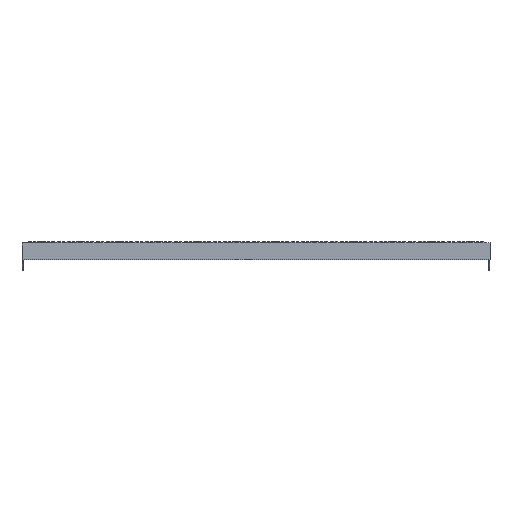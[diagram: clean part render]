
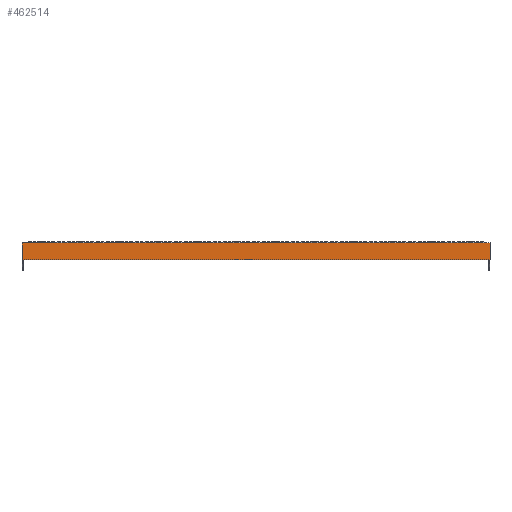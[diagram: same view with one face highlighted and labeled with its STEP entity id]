
A CAD part, front view. The second image highlights one B-rep face of the part: STEP entity #462514.
In plain terms, the highlighted planar face has unit normal (0, -1, 0).
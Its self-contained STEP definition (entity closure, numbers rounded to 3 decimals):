
#462514 = ADVANCED_FACE('',(#462515),#462529,.T.);
#462515 = FACE_BOUND('',#462516,.T.);
#462516 = EDGE_LOOP('',(#462517,#462540,#462556,#462572));
#462517 = ORIENTED_EDGE('',*,*,#462518,.T.);
#462518 = EDGE_CURVE('',#462519,#462521,#462523,.T.);
#462519 = VERTEX_POINT('',#462520);
#462520 = CARTESIAN_POINT('',(7200.,8770.,
    0.));
#462521 = VERTEX_POINT('',#462522);
#462522 = CARTESIAN_POINT('',(6000.,8770.,
    0.));
#462523 = SURFACE_CURVE('',#462524,(#462528),.PCURVE_S1.);
#462524 = LINE('',#462525,#462526);
#462525 = CARTESIAN_POINT('',(7200.,8770.,
    0.));
#462526 = VECTOR('',#462527,1.);
#462527 = DIRECTION('',(-1.,0.,0.));
#462528 = PCURVE('',#462529,#462534);
#462529 = PLANE('',#462530);
#462530 = AXIS2_PLACEMENT_3D('',#462531,#462532,#462533);
#462531 = CARTESIAN_POINT('',(6600.,8770.,
    -21.25));
#462532 = DIRECTION('',(0.,-1.,0.));
#462533 = DIRECTION('',(0.,0.,-1.));
#462534 = DEFINITIONAL_REPRESENTATION('',(#462535),#462539);
#462535 = LINE('',#462536,#462537);
#462536 = CARTESIAN_POINT('',(-21.25,600.));
#462537 = VECTOR('',#462538,1.);
#462538 = DIRECTION('',(0.,-1.));
#462539 = ( GEOMETRIC_REPRESENTATION_CONTEXT(2) 
PARAMETRIC_REPRESENTATION_CONTEXT() REPRESENTATION_CONTEXT('2D SPACE',''
  ) );
#462540 = ORIENTED_EDGE('',*,*,#462541,.T.);
#462541 = EDGE_CURVE('',#462521,#462542,#462544,.T.);
#462542 = VERTEX_POINT('',#462543);
#462543 = CARTESIAN_POINT('',(6000.,8770.,-42.5)
  );
#462544 = SURFACE_CURVE('',#462545,(#462549),.PCURVE_S1.);
#462545 = LINE('',#462546,#462547);
#462546 = CARTESIAN_POINT('',(6000.,8770.,
    0.));
#462547 = VECTOR('',#462548,1.);
#462548 = DIRECTION('',(0.,0.,-1.));
#462549 = PCURVE('',#462529,#462550);
#462550 = DEFINITIONAL_REPRESENTATION('',(#462551),#462555);
#462551 = LINE('',#462552,#462553);
#462552 = CARTESIAN_POINT('',(-21.25,-600.));
#462553 = VECTOR('',#462554,1.);
#462554 = DIRECTION('',(1.,0.));
#462555 = ( GEOMETRIC_REPRESENTATION_CONTEXT(2) 
PARAMETRIC_REPRESENTATION_CONTEXT() REPRESENTATION_CONTEXT('2D SPACE',''
  ) );
#462556 = ORIENTED_EDGE('',*,*,#462557,.T.);
#462557 = EDGE_CURVE('',#462542,#462558,#462560,.T.);
#462558 = VERTEX_POINT('',#462559);
#462559 = CARTESIAN_POINT('',(7200.,8770.,
    -42.5));
#462560 = SURFACE_CURVE('',#462561,(#462565),.PCURVE_S1.);
#462561 = LINE('',#462562,#462563);
#462562 = CARTESIAN_POINT('',(6000.,8770.,-42.5)
  );
#462563 = VECTOR('',#462564,1.);
#462564 = DIRECTION('',(1.,0.,0.));
#462565 = PCURVE('',#462529,#462566);
#462566 = DEFINITIONAL_REPRESENTATION('',(#462567),#462571);
#462567 = LINE('',#462568,#462569);
#462568 = CARTESIAN_POINT('',(21.25,-600.));
#462569 = VECTOR('',#462570,1.);
#462570 = DIRECTION('',(0.,1.));
#462571 = ( GEOMETRIC_REPRESENTATION_CONTEXT(2) 
PARAMETRIC_REPRESENTATION_CONTEXT() REPRESENTATION_CONTEXT('2D SPACE',''
  ) );
#462572 = ORIENTED_EDGE('',*,*,#462573,.T.);
#462573 = EDGE_CURVE('',#462558,#462519,#462574,.T.);
#462574 = SURFACE_CURVE('',#462575,(#462579),.PCURVE_S1.);
#462575 = LINE('',#462576,#462577);
#462576 = CARTESIAN_POINT('',(7200.,8770.,
    -42.5));
#462577 = VECTOR('',#462578,1.);
#462578 = DIRECTION('',(0.,0.,1.));
#462579 = PCURVE('',#462529,#462580);
#462580 = DEFINITIONAL_REPRESENTATION('',(#462581),#462585);
#462581 = LINE('',#462582,#462583);
#462582 = CARTESIAN_POINT('',(21.25,600.));
#462583 = VECTOR('',#462584,1.);
#462584 = DIRECTION('',(-1.,0.));
#462585 = ( GEOMETRIC_REPRESENTATION_CONTEXT(2) 
PARAMETRIC_REPRESENTATION_CONTEXT() REPRESENTATION_CONTEXT('2D SPACE',''
  ) );
